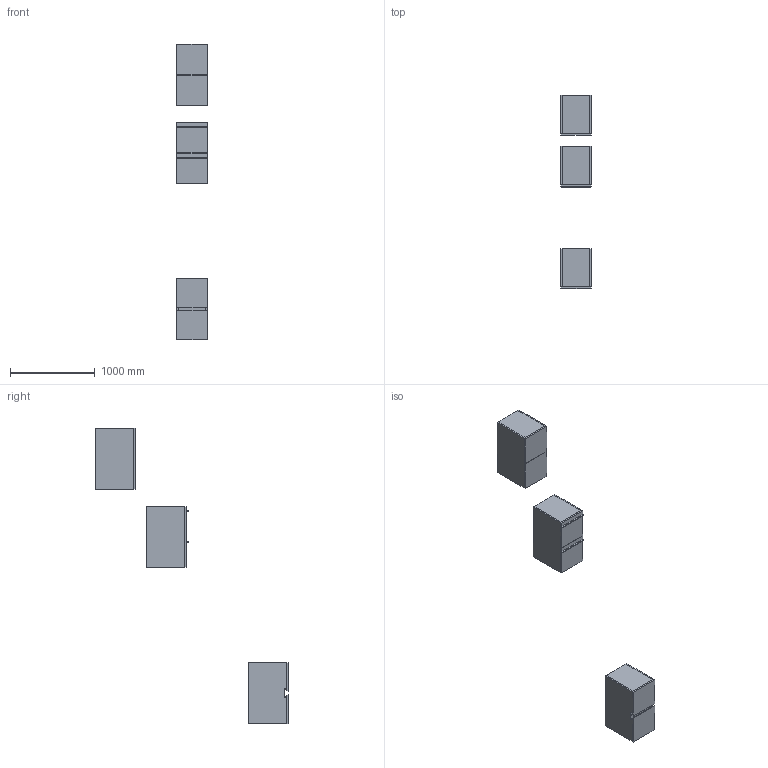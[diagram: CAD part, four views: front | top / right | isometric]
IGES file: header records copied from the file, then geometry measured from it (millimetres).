
Start section: Data from Parasolid IGES Translator 19.0.9, Copyright(c) 2006 Siemens PL M Software. All Rights Reserved.
Global section: file name: noorth-SI-H 72 D 47 W 36_8613.igs; native system: By Siemens PLM Incorporated; preprocessor: XPlus GENERIC/IGES 19.0.9; author: Noname; organization: Noname; date: 20200601.120558; units: metre
Bounding box: 360 x 2270 x 3480.01 mm (x, y, z)
Volume: 61639636.4 mm3; surface area: 9192729.9 mm2
Topology: 24 solids, 24 shells, 248 faces, 544 edges, 324 vertices
Faces by surface type: plane 164, extrusion 36, bspline 32, cylinder 16
